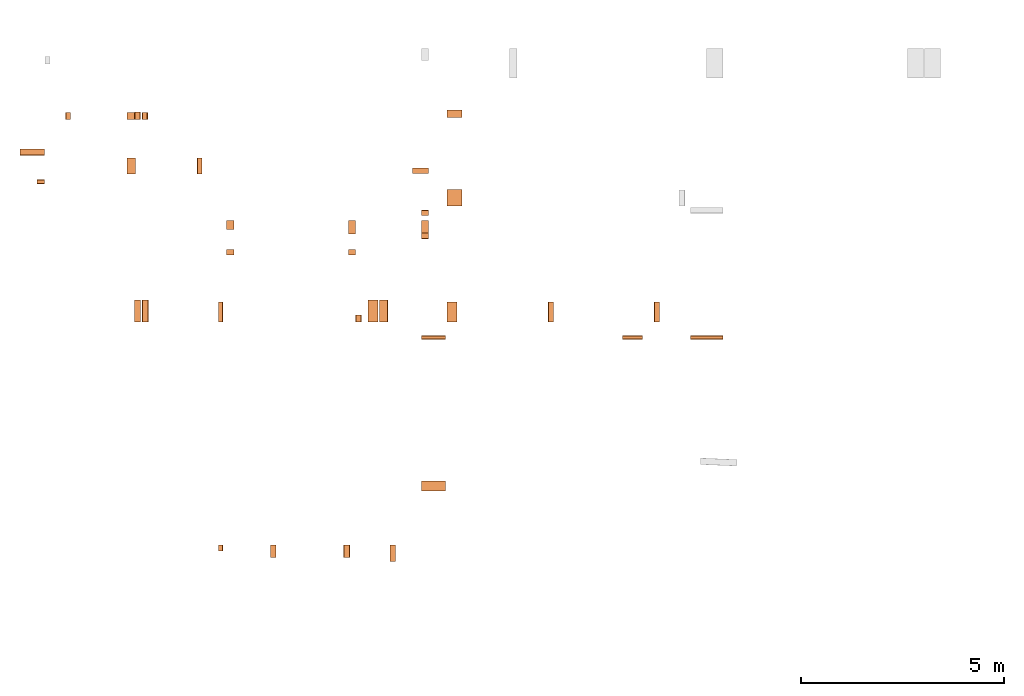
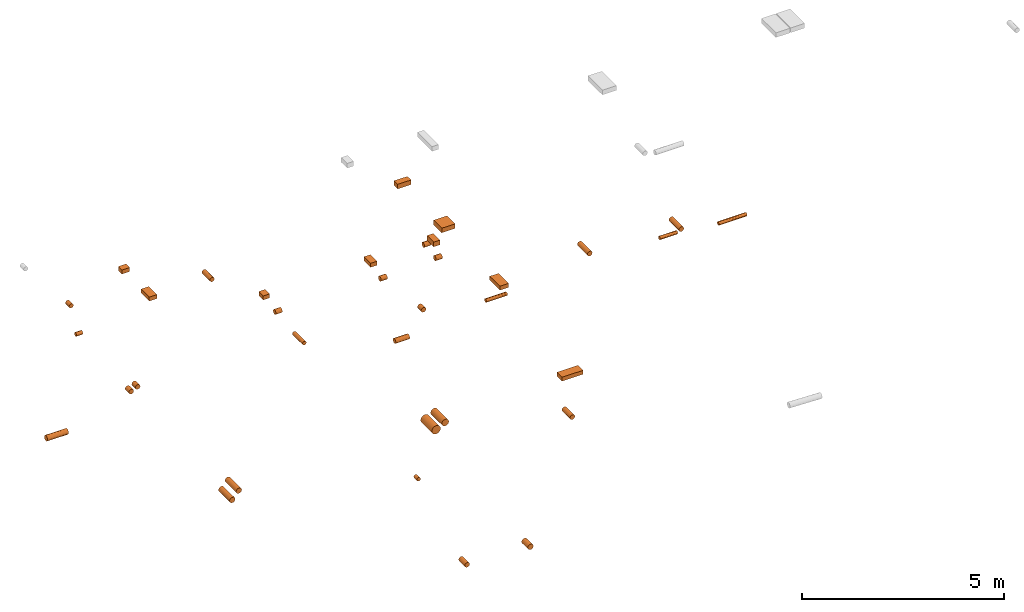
# One storey, part 2 of 7: 36 proxies.
"""IFC2X3 building model written with IfcOpenShell, lengths in centimetres."""

from ifc_helpers import new_model, entity, si_unit, converted_unit, derived_unit, direction, frame, frame_2d, origin, origin_2d_with_axis, place, context, subcontext, project, spatial, rectangle, circle, extrude, source, transform, mapped, material, type_object, type_shapes, element, save


model = new_model("IFC2X3")

# Units and contexts
model_context = context("Model", 3, precision=0.001, world=origin(), true_north=direction((6.12303176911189e-17, 1.0)))
body_context = subcontext(model_context, "Body", "Model", "MODEL_VIEW")
ifc_project = project(units=[si_unit("LENGTHUNIT", "METRE", prefix="CENTI"), si_unit("AREAUNIT", "SQUARE_METRE"), si_unit("VOLUMEUNIT", "CUBIC_METRE"), converted_unit("PLANEANGLEUNIT", "DEGREE", entity("IfcRatioMeasure", 0.0174532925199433), si_unit("PLANEANGLEUNIT", "RADIAN"), dimensions=[0, 0, 0, 0, 0, 0, 0]), si_unit("MASSUNIT", "GRAM", prefix="KILO"), derived_unit("MASSDENSITYUNIT", [(si_unit("MASSUNIT", "GRAM", prefix="KILO"), 1), (si_unit("LENGTHUNIT", "METRE"), -3)]), si_unit("TIMEUNIT", "SECOND"), si_unit("FREQUENCYUNIT", "HERTZ"), si_unit("THERMODYNAMICTEMPERATUREUNIT", "DEGREE_CELSIUS"), derived_unit("THERMALTRANSMITTANCEUNIT", [(si_unit("MASSUNIT", "GRAM", prefix="KILO"), 1), (si_unit("THERMODYNAMICTEMPERATUREUNIT", "KELVIN"), -1), (si_unit("TIMEUNIT", "SECOND"), -3)]), derived_unit("VOLUMETRICFLOWRATEUNIT", [(si_unit("LENGTHUNIT", "METRE"), 3), (si_unit("TIMEUNIT", "SECOND"), -1)]), si_unit("ELECTRICCURRENTUNIT", "AMPERE"), si_unit("ELECTRICVOLTAGEUNIT", "VOLT"), si_unit("POWERUNIT", "WATT"), si_unit("FORCEUNIT", "NEWTON"), si_unit("ILLUMINANCEUNIT", "LUX"), si_unit("LUMINOUSFLUXUNIT", "LUMEN"), si_unit("LUMINOUSINTENSITYUNIT", "CANDELA"), derived_unit("USERDEFINED", [(si_unit("MASSUNIT", "GRAM", prefix="KILO"), -1), (si_unit("LENGTHUNIT", "METRE"), -2), (si_unit("TIMEUNIT", "SECOND"), 3), (si_unit("LUMINOUSFLUXUNIT", "LUMEN"), 1)]), derived_unit("LINEARVELOCITYUNIT", [(si_unit("LENGTHUNIT", "METRE"), 1), (si_unit("TIMEUNIT", "SECOND"), -1)]), si_unit("PRESSUREUNIT", "PASCAL"), derived_unit("USERDEFINED", [(si_unit("LENGTHUNIT", "METRE"), -2), (si_unit("MASSUNIT", "GRAM", prefix="KILO"), 1), (si_unit("TIMEUNIT", "SECOND"), -2)])], contexts=[model_context])

# Site, building, storey
site_placement = place(None, origin())
site = spatial("IfcSite", under=ifc_project, at=site_placement, Name="Default", CompositionType="ELEMENT")
building_placement = place(site_placement, origin())
building = spatial("IfcBuilding", under=site, at=building_placement, Name="CAGE 03", CompositionType="ELEMENT")
storey_placement = place(building_placement, origin())
storey = spatial("IfcBuildingStorey", under=building, at=storey_placement, Name="RDC", CompositionType="ELEMENT", Elevation=-1.08286712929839e-13)

# Proxies
ifc_material = material(Name="Verre")
building_element_proxy_type_1 = type_object("IfcBuildingElementProxyType", Name="Standard", PredefinedType="NOTDEFINED", material=ifc_material)
shared_shape_1 = source(origin(), body_context, "Body", "SweptSolid", [
    extrude(circle(Radius=8.0, at=frame_2d((0.0, -2.70716782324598e-14), x_axis=(1.0, 0.0))), frame((3452.91325995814, 4381.66066607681, -83.048852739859), z_axis=(0.0, 1.0, 0.0), x_axis=(1.0, 0.0, 0.0)), (0.0, 0.0, 1.0), 54.9999999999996),
])
type_shapes(building_element_proxy_type_1, [shared_shape_1])
proxy_1_placement = place(storey_placement, origin())
element("IfcBuildingElementProxy", 1, at=proxy_1_placement, inside=storey, type_object=building_element_proxy_type_1, material=ifc_material, Name="RESERVATION CIRC_MUR:Standard", ObjectType="Standard", context=body_context, shape_type="MappedRepresentation", body=[
    mapped(shared_shape_1, transform((0.0, 0.0, 0.0), scale=1.0)),
])
building_element_proxy_type_2 = type_object("IfcBuildingElementProxyType", Name="Standard", PredefinedType="NOTDEFINED", material=ifc_material)
shared_shape_2 = source(origin(), body_context, "Body", "SweptSolid", [
    extrude(circle(Radius=8.0, at=frame_2d((0.0, -4.06075173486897e-14), x_axis=(1.0, 0.0))), frame((3950.0323707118, 3801.66066607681, -75.1038906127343), z_axis=(0.0, 1.0, 0.0), x_axis=(1.0, 0.0, 0.0)), (0.0, 0.0, 1.0), 30.0000000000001),
])
type_shapes(building_element_proxy_type_2, [shared_shape_2])
proxy_2_placement = place(storey_placement, origin())
element("IfcBuildingElementProxy", 2, at=proxy_2_placement, inside=storey, type_object=building_element_proxy_type_2, material=ifc_material, Name="RESERVATION CIRC_MUR:Standard", ObjectType="Standard", context=body_context, shape_type="MappedRepresentation", body=[
    mapped(shared_shape_2, transform((0.0, 0.0, 0.0), scale=1.0)),
])
building_element_proxy_type_3 = type_object("IfcBuildingElementProxyType", Name="Standard", PredefinedType="NOTDEFINED", material=ifc_material)
shared_shape_3 = source(origin(), body_context, "Body", "SweptSolid", [
    extrude(circle(Radius=10.0, at=frame_2d((0.0, -5.41433564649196e-14), x_axis=(1.0, 0.0))), frame((4041.6712981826, 4381.66066607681, -83.6787810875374), z_axis=(0.0, 1.0, 0.0), x_axis=(1.0, 0.0, 0.0)), (0.0, 0.0, 1.0), 54.9999999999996),
])
type_shapes(building_element_proxy_type_3, [shared_shape_3])
proxy_3_placement = place(storey_placement, origin())
element("IfcBuildingElementProxy", 3, at=proxy_3_placement, inside=storey, type_object=building_element_proxy_type_3, material=ifc_material, Name="RESERVATION CIRC_MUR:Standard", ObjectType="Standard", context=body_context, shape_type="MappedRepresentation", body=[
    mapped(shared_shape_3, transform((0.0, 0.0, 0.0), scale=1.0)),
])
building_element_proxy_type_4 = type_object("IfcBuildingElementProxyType", Name="Standard", PredefinedType="NOTDEFINED", material=ifc_material)
shared_shape_4 = source(origin(), body_context, "Body", "SweptSolid", [
    extrude(circle(Radius=7.0, at=frame_2d((-3.48550551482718e-16, -3.1514871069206e-14), x_axis=(1.0, 0.0))), frame((0.0, -9.0, 0.0), z_axis=(0.0, 1.0, 0.0), x_axis=(1.0, 0.0, 0.0)), (0.0, 0.0, 1.0), 17.9999999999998),
])
type_shapes(building_element_proxy_type_4, [shared_shape_4])
proxy_4_placement = place(storey_placement, frame((3979.57936653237, 4390.66066607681, 278.246082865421), z_axis=(0.0, 0.0, 1.0), x_axis=(-1.0, 0.0, 0.0)))
element("IfcBuildingElementProxy", 4, at=proxy_4_placement, inside=storey, type_object=building_element_proxy_type_4, material=ifc_material, Name="RESERVATION CIRC_MUR:Standard", ObjectType="Standard", context=body_context, shape_type="MappedRepresentation", body=[
    mapped(shared_shape_4, transform((0.0, 0.0, 0.0), scale=1.0)),
])
building_element_proxy_type_5 = type_object("IfcBuildingElementProxyType", Name="Standard", PredefinedType="NOTDEFINED", material=ifc_material)
shared_shape_5 = source(origin(), body_context, "Body", "SweptSolid", [
    extrude(circle(Radius=7.0, at=frame_2d((-3.48550551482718e-16, -3.1514871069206e-14), x_axis=(1.0, 0.0))), frame((0.0, -25.0, 0.0), z_axis=(0.0, 1.0, 0.0), x_axis=(1.0, 0.0, 0.0)), (0.0, 0.0, 1.0), 49.9999999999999),
])
type_shapes(building_element_proxy_type_5, [shared_shape_5])
proxy_5_placement = place(storey_placement, frame((4454.09511344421, 4406.66066607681, 281.569261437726), z_axis=(0.0, 0.0, 1.0), x_axis=(-1.0, 0.0, 0.0)))
element("IfcBuildingElementProxy", 5, at=proxy_5_placement, inside=storey, type_object=building_element_proxy_type_5, material=ifc_material, Name="RESERVATION CIRC_MUR:Standard", ObjectType="Standard", context=body_context, shape_type="MappedRepresentation", body=[
    mapped(shared_shape_5, transform((0.0, 0.0, 0.0), scale=1.0)),
])
building_element_proxy_type_6 = type_object("IfcBuildingElementProxyType", Name="Standard", PredefinedType="NOTDEFINED", material=ifc_material)
shared_shape_6 = source(origin(), body_context, "Body", "SweptSolid", [
    extrude(circle(Radius=7.0, at=frame_2d((0.0, -2.70716782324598e-14), x_axis=(1.0, 0.0))), frame((3452.91325995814, 4881.65566607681, -73.1800399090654), z_axis=(0.0, 1.0, 0.0), x_axis=(1.0, 0.0, 0.0)), (0.0, 0.0, 1.0), 18.0100000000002),
])
type_shapes(building_element_proxy_type_6, [shared_shape_6])
proxy_6_placement = place(storey_placement, origin())
element("IfcBuildingElementProxy", 6, at=proxy_6_placement, inside=storey, type_object=building_element_proxy_type_6, material=ifc_material, Name="RESERVATION CIRC_MUR:Standard", ObjectType="Standard", context=body_context, shape_type="MappedRepresentation", body=[
    mapped(shared_shape_6, transform((0.0, 0.0, 0.0), scale=1.0)),
])
building_element_proxy_type_7 = type_object("IfcBuildingElementProxyType", Name="Standard", PredefinedType="NOTDEFINED", material=ifc_material)
shared_shape_7 = source(origin(), body_context, "Body", "SweptSolid", [
    extrude(circle(Radius=7.0, at=frame_2d((0.0, -2.70716782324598e-14), x_axis=(1.0, 0.0))), frame((3434.05857848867, 4881.61066607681, -80.916963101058), z_axis=(0.0, 1.0, 0.0), x_axis=(1.0, 0.0, 0.0)), (0.0, 0.0, 1.0), 18.0999999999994),
])
type_shapes(building_element_proxy_type_7, [shared_shape_7])
proxy_7_placement = place(storey_placement, origin())
element("IfcBuildingElementProxy", 7, at=proxy_7_placement, inside=storey, type_object=building_element_proxy_type_7, material=ifc_material, Name="RESERVATION CIRC_MUR:Standard", ObjectType="Standard", context=body_context, shape_type="MappedRepresentation", body=[
    mapped(shared_shape_7, transform((0.0, 0.0, 0.0), scale=1.0)),
])
building_element_proxy_type_8 = type_object("IfcBuildingElementProxyType", Name="Standard", PredefinedType="NOTDEFINED", material=ifc_material)
shared_shape_8 = source(origin(), body_context, "Body", "SweptSolid", [
    extrude(circle(Radius=8.0, at=frame_2d((0.0, -1.35358391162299e-14), x_axis=(1.0, 0.0))), frame((3144.36582014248, 4801.30550928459, -71.3211962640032), z_axis=(1.0, 0.0, 0.0), x_axis=(0.0, 1.0, 0.0)), (0.0, 0.0, 1.0), 60.0000000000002),
])
type_shapes(building_element_proxy_type_8, [shared_shape_8])
proxy_8_placement = place(storey_placement, origin())
element("IfcBuildingElementProxy", 8, at=proxy_8_placement, inside=storey, type_object=building_element_proxy_type_8, material=ifc_material, Name="RESERVATION CIRC_MUR:Standard", ObjectType="Standard", context=body_context, shape_type="MappedRepresentation", body=[
    mapped(shared_shape_8, transform((0.0, 0.0, 0.0), scale=1.0)),
])
building_element_proxy_type_9 = type_object("IfcBuildingElementProxyType", Name="Standard", PredefinedType="NOTDEFINED", material=ifc_material)
shared_shape_9 = source(origin(), body_context, "Body", "SweptSolid", [
    extrude(circle(Radius=8.0, at=frame_2d((0.0, -4.06075173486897e-14), x_axis=(1.0, 0.0))), frame((3434.25223407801, 4381.66066607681, -104.670203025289), z_axis=(0.0, 1.0, 0.0), x_axis=(1.0, 0.0, 0.0)), (0.0, 0.0, 1.0), 54.9999999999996),
])
type_shapes(building_element_proxy_type_9, [shared_shape_9])
proxy_9_placement = place(storey_placement, origin())
element("IfcBuildingElementProxy", 9, at=proxy_9_placement, inside=storey, type_object=building_element_proxy_type_9, material=ifc_material, Name="RESERVATION CIRC_MUR:Standard", ObjectType="Standard", context=body_context, shape_type="MappedRepresentation", body=[
    mapped(shared_shape_9, transform((0.0, 0.0, 0.0), scale=1.0)),
])
building_element_proxy_type_10 = type_object("IfcBuildingElementProxyType", Name="Standard", PredefinedType="NOTDEFINED", material=ifc_material)
shared_shape_10 = source(origin(), body_context, "Body", "SweptSolid", [
    extrude(circle(Radius=12.5, at=frame_2d((0.0, -5.41433564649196e-14), x_axis=(1.0, 0.0))), frame((4015.59188357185, 4381.66066607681, -96.3596179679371), z_axis=(0.0, 1.0, 0.0), x_axis=(1.0, 0.0, 0.0)), (0.0, 0.0, 1.0), 54.9999999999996),
])
type_shapes(building_element_proxy_type_10, [shared_shape_10])
proxy_10_placement = place(storey_placement, origin())
element("IfcBuildingElementProxy", 10, at=proxy_10_placement, inside=storey, type_object=building_element_proxy_type_10, material=ifc_material, Name="RESERVATION CIRC_MUR:Standard", ObjectType="Standard", context=body_context, shape_type="MappedRepresentation", body=[
    mapped(shared_shape_10, transform((0.0, 0.0, 0.0), scale=1.0)),
])
building_element_proxy_type_11 = type_object("IfcBuildingElementProxyType", Name="Standard", PredefinedType="NOTDEFINED", material=ifc_material)
shared_shape_11 = source(origin(), body_context, "Body", "SweptSolid", [
    extrude(circle(Radius=7.0, at=frame_2d((0.0, -1.35358391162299e-14), x_axis=(1.0, 0.0))), frame((4112.35077153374, 4755.59328890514, -89.05250063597), z_axis=(1.0, 0.0, 0.0), x_axis=(0.0, 1.0, 0.0)), (0.0, 0.0, 1.0), 40.0300972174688),
])
type_shapes(building_element_proxy_type_11, [shared_shape_11])
proxy_11_placement = place(storey_placement, origin())
element("IfcBuildingElementProxy", 11, at=proxy_11_placement, inside=storey, type_object=building_element_proxy_type_11, material=ifc_material, Name="RESERVATION CIRC_MUR:Standard", ObjectType="Standard", context=body_context, shape_type="MappedRepresentation", body=[
    mapped(shared_shape_11, transform((0.0, 0.0, 0.0), scale=1.0)),
])
building_element_proxy_type_12 = type_object("IfcBuildingElementProxyType", Name="Standard", PredefinedType="NOTDEFINED", material=ifc_material)
shared_shape_12 = source(origin(), body_context, "Body", "SweptSolid", [
    extrude(circle(Radius=7.0, at=frame_2d((0.0, -4.06075173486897e-14), x_axis=(1.0, 0.0))), frame((3769.36582014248, 3801.66066607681, -66.0), z_axis=(0.0, 1.0, 0.0), x_axis=(1.0, 0.0, 0.0)), (0.0, 0.0, 1.0), 30.0000000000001),
])
type_shapes(building_element_proxy_type_12, [shared_shape_12])
proxy_12_placement = place(storey_placement, origin())
element("IfcBuildingElementProxy", 12, at=proxy_12_placement, inside=storey, type_object=building_element_proxy_type_12, material=ifc_material, Name="RESERVATION CIRC_MUR:Standard", ObjectType="Standard", context=body_context, shape_type="MappedRepresentation", body=[
    mapped(shared_shape_12, transform((0.0, 0.0, 0.0), scale=1.0)),
])
building_element_proxy_type_13 = type_object("IfcBuildingElementProxyType", Name="Standard", PredefinedType="NOTDEFINED", material=ifc_material)
shared_shape_13 = source(origin(), body_context, "Body", "SweptSolid", [
    extrude(circle(Radius=7.00000000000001, at=origin_2d_with_axis()), frame((3654.36582014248, 4554.59080806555, 280.691843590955), z_axis=(1.0, 0.0, 0.0), x_axis=(0.0, 1.0, 0.0)), (0.0, 0.0, 1.0), 17.9999999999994),
])
type_shapes(building_element_proxy_type_13, [shared_shape_13])
proxy_13_placement = place(storey_placement, origin())
element("IfcBuildingElementProxy", 13, at=proxy_13_placement, inside=storey, type_object=building_element_proxy_type_13, material=ifc_material, Name="RESERVATION CIRC_MUR:Standard", ObjectType="Standard", context=body_context, shape_type="MappedRepresentation", body=[
    mapped(shared_shape_13, transform((0.0, 0.0, 0.0), scale=1.0)),
])
building_element_proxy_type_14 = type_object("IfcBuildingElementProxyType", Name="Standard", PredefinedType="NOTDEFINED", material=ifc_material)
shared_shape_14 = source(origin(), body_context, "Body", "SweptSolid", [
    extrude(circle(Radius=7.0, at=origin_2d_with_axis()), frame((3954.36582014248, 4554.59080806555, 276.225630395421), z_axis=(1.0, 0.0, 0.0), x_axis=(0.0, 1.0, 0.0)), (0.0, 0.0, 1.0), 17.9999999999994),
])
type_shapes(building_element_proxy_type_14, [shared_shape_14])
proxy_14_placement = place(storey_placement, origin())
element("IfcBuildingElementProxy", 14, at=proxy_14_placement, inside=storey, type_object=building_element_proxy_type_14, material=ifc_material, Name="RESERVATION CIRC_MUR1:Standard", ObjectType="Standard", context=body_context, shape_type="MappedRepresentation", body=[
    mapped(shared_shape_14, transform((0.0, 0.0, 0.0), scale=1.0)),
])
building_element_proxy_type_15 = type_object("IfcBuildingElementProxyType", Name="Standard", PredefinedType="NOTDEFINED", material=ifc_material)
shared_shape_15 = source(origin(), body_context, "Body", "SweptSolid", [
    extrude(circle(Radius=7.0, at=frame_2d((-3.48550551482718e-16, -3.1514871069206e-14), x_axis=(1.0, 0.0))), frame((0.0, -9.0, 0.0), z_axis=(0.0, 1.0, 0.0), x_axis=(1.0, 0.0, 0.0)), (0.0, 0.0, 1.0), 18.0000000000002),
])
type_shapes(building_element_proxy_type_15, [shared_shape_15])
proxy_15_placement = place(storey_placement, frame((4143.36582014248, 4594.35751097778, 250.79), z_axis=(0.0, 0.0, 1.0), x_axis=(0.0, 1.0, 0.0)))
element("IfcBuildingElementProxy", 15, at=proxy_15_placement, inside=storey, type_object=building_element_proxy_type_15, material=ifc_material, Name="RESERVATION CIRC_MUR1:Standard", ObjectType="Standard", context=body_context, shape_type="MappedRepresentation", body=[
    mapped(shared_shape_15, transform((0.0, 0.0, 0.0), scale=1.0)),
])
building_element_proxy_type_16 = type_object("IfcBuildingElementProxyType", Name="Standard", PredefinedType="NOTDEFINED", material=ifc_material)
shared_shape_16 = source(origin(), body_context, "Body", "SweptSolid", [
    extrude(circle(Radius=7.0, at=frame_2d((-3.48550551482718e-16, -3.1514871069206e-14), x_axis=(1.0, 0.0))), frame((0.0, -9.0, 0.0), z_axis=(0.0, 1.0, 0.0), x_axis=(1.0, 0.0, 0.0)), (0.0, 0.0, 1.0), 17.9999999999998),
])
type_shapes(building_element_proxy_type_16, [shared_shape_16])
proxy_16_placement = place(storey_placement, frame((3979.57936653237, 4390.66066607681, 278.246082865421), z_axis=(0.0, 0.0, 1.0), x_axis=(-1.0, 0.0, 0.0)))
element("IfcBuildingElementProxy", 16, at=proxy_16_placement, inside=storey, type_object=building_element_proxy_type_16, material=ifc_material, Name="RESERVATION CIRC_MUR1:Standard", ObjectType="Standard", context=body_context, shape_type="MappedRepresentation", body=[
    mapped(shared_shape_16, transform((0.0, 0.0, 0.0), scale=1.0)),
])
building_element_proxy_type_17 = type_object("IfcBuildingElementProxyType", Name="Standard", PredefinedType="NOTDEFINED", material=ifc_material)
shared_shape_17 = source(origin(), body_context, "Body", "SweptSolid", [
    extrude(circle(Radius=7.0, at=frame_2d((-3.48550551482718e-16, -3.1514871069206e-14), x_axis=(1.0, 0.0))), frame((0.0, -20.0, 0.0), z_axis=(0.0, 1.0, 0.0), x_axis=(1.0, 0.0, 0.0)), (0.0, 0.0, 1.0), 40.0000000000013),
])
type_shapes(building_element_proxy_type_17, [shared_shape_17])
proxy_17_placement = place(storey_placement, frame((4063.81769957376, 3811.66066607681, 282.561629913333), z_axis=(0.0, 0.0, 1.0), x_axis=(-1.0, 0.0, 0.0)))
element("IfcBuildingElementProxy", 17, at=proxy_17_placement, inside=storey, type_object=building_element_proxy_type_17, material=ifc_material, Name="RESERVATION CIRC_MUR1:Standard", ObjectType="Standard", context=body_context, shape_type="MappedRepresentation", body=[
    mapped(shared_shape_17, transform((0.0, 0.0, 0.0), scale=1.0)),
])
building_element_proxy_type_18 = type_object("IfcBuildingElementProxyType", Name="Standard", PredefinedType="NOTDEFINED", material=ifc_material)
shared_shape_18 = source(origin(), body_context, "Body", "SweptSolid", [
    extrude(circle(Radius=6.25, at=frame_2d((0.0, -2.70716782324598e-14), x_axis=(1.0, 0.0))), frame((3263.03068467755, 4881.66066607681, 237.743527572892), z_axis=(-4.66450641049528e-06, 1.0, 0.0), x_axis=(-1.0, -4.66450641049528e-06, 0.0)), (0.0, 0.0, 1.0), 18.0000000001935),
])
type_shapes(building_element_proxy_type_18, [shared_shape_18])
proxy_18_placement = place(storey_placement, origin())
element("IfcBuildingElementProxy", 18, at=proxy_18_placement, inside=storey, type_object=building_element_proxy_type_18, material=ifc_material, Name="RESERVATION CIRC_MUR:Standard", ObjectType="Standard", context=body_context, shape_type="MappedRepresentation", body=[
    mapped(shared_shape_18, transform((0.0, 0.0, 0.0), scale=1.0)),
])
building_element_proxy_type_19 = type_object("IfcBuildingElementProxyType", Name="Standard", PredefinedType="NOTDEFINED", material=ifc_material)
shared_shape_19 = source(origin(), body_context, "Body", "SweptSolid", [
    extrude(circle(Radius=6.25, at=frame_2d((-3.48550551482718e-16, -2.81382777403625e-14), x_axis=(1.0, 0.0))), frame((0.0, -20.0, 0.0), z_axis=(0.0, 1.0, 0.0), x_axis=(1.0, 0.0, 0.0)), (0.0, 0.0, 1.0), 40.0000000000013),
])
type_shapes(building_element_proxy_type_19, [shared_shape_19])
proxy_19_placement = place(storey_placement, frame((3587.36582014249, 4767.16066607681, 285.076580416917), z_axis=(0.0, 0.0, 1.0), x_axis=(-1.0, 0.0, 0.0)))
element("IfcBuildingElementProxy", 19, at=proxy_19_placement, inside=storey, type_object=building_element_proxy_type_19, material=ifc_material, Name="RESERVATION CIRC_MUR1:Standard", ObjectType="Standard", context=body_context, shape_type="MappedRepresentation", body=[
    mapped(shared_shape_19, transform((0.0, 0.0, 0.0), scale=1.0)),
])
building_element_proxy_type_20 = type_object("IfcBuildingElementProxyType", Name="Standard", PredefinedType="NOTDEFINED", material=ifc_material)
shared_shape_20 = source(origin(), body_context, "Body", "SweptSolid", [
    extrude(circle(Radius=7.0, at=frame_2d((-3.48550551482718e-16, -3.1514871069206e-14), x_axis=(1.0, 0.0))), frame((0.0, -25.0, 0.0), z_axis=(0.0, 1.0, 0.0), x_axis=(1.0, 0.0, 0.0)), (0.0, 0.0, 1.0), 49.9999999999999),
])
type_shapes(building_element_proxy_type_20, [shared_shape_20])
proxy_20_placement = place(storey_placement, frame((4715.36626903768, 4406.66049003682, 264.086332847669), z_axis=(0.0, 0.0, 1.0), x_axis=(-1.0, -5.13707993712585e-08, 0.0)))
element("IfcBuildingElementProxy", 20, at=proxy_20_placement, inside=storey, type_object=building_element_proxy_type_20, material=ifc_material, Name="RESERVATION CIRC_MUR1:Standard", ObjectType="Standard", context=body_context, shape_type="MappedRepresentation", body=[
    mapped(shared_shape_20, transform((0.0, 0.0, 0.0), scale=1.0)),
])
building_element_proxy_type_21 = type_object("IfcBuildingElementProxyType", Name="Standard", PredefinedType="NOTDEFINED", material=ifc_material)
shared_shape_21 = source(origin(), body_context, "Body", "SweptSolid", [
    extrude(circle(Radius=7.0, at=origin_2d_with_axis()), frame((4134.36582014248, 4651.62026176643, 256.214646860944), z_axis=(1.0, 0.0, 0.0), x_axis=(0.0, 1.0, 0.0)), (0.0, 0.0, 1.0), 17.9999999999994),
])
type_shapes(building_element_proxy_type_21, [shared_shape_21])
proxy_21_placement = place(storey_placement, origin())
element("IfcBuildingElementProxy", 21, at=proxy_21_placement, inside=storey, type_object=building_element_proxy_type_21, material=ifc_material, Name="RESERVATION CIRC_MUR1:Standard", ObjectType="Standard", context=body_context, shape_type="MappedRepresentation", body=[
    mapped(shared_shape_21, transform((0.0, 0.0, 0.0), scale=1.0)),
])
building_element_proxy_type_22 = type_object("IfcBuildingElementProxyType", Name="Standard", PredefinedType="NOTDEFINED", material=ifc_material)
shared_shape_22 = source(origin(), body_context, "Body", "SweptSolid", [
    extrude(rectangle(XDim=39.9999999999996, YDim=21.9999999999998, at=origin_2d_with_axis()), frame((3418.81931142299, 4767.16066607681, 283.076580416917), z_axis=(0.0, 0.0, 1.0), x_axis=(0.0, -1.0, 0.0)), (0.0, 0.0, 1.0), 12.0),
])
type_shapes(building_element_proxy_type_22, [shared_shape_22])
proxy_22_placement = place(storey_placement, origin())
element("IfcBuildingElementProxy", 22, at=proxy_22_placement, inside=storey, type_object=building_element_proxy_type_22, material=ifc_material, Name="RESERVATION RECT_MUR:Standard", ObjectType="Standard", context=body_context, shape_type="MappedRepresentation", body=[
    mapped(shared_shape_22, transform((0.0, 0.0, 0.0), scale=1.0)),
])
building_element_proxy_type_23 = type_object("IfcBuildingElementProxyType", Name="Standard", PredefinedType="NOTDEFINED", material=ifc_material)
shared_shape_23 = source(origin(), body_context, "Body", "SweptSolid", [
    extrude(rectangle(XDim=17.9999999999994, YDim=22.0000000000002, at=origin_2d_with_axis()), frame((3663.36582014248, 4621.66066607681, 283.076580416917)), (0.0, 0.0, 1.0), 12.0),
])
type_shapes(building_element_proxy_type_23, [shared_shape_23])
proxy_23_placement = place(storey_placement, origin())
element("IfcBuildingElementProxy", 23, at=proxy_23_placement, inside=storey, type_object=building_element_proxy_type_23, material=ifc_material, Name="RESERVATION RECT_MUR:Standard", ObjectType="Standard", context=body_context, shape_type="MappedRepresentation", body=[
    mapped(shared_shape_23, transform((0.0, 0.0, 0.0), scale=1.0)),
])
building_element_proxy_type_24 = type_object("IfcBuildingElementProxyType", Name="Standard", PredefinedType="NOTDEFINED", material=ifc_material)
shared_shape_24 = source(origin(), body_context, "Body", "SweptSolid", [
    extrude(rectangle(XDim=17.9999999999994, YDim=33.0000000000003, at=frame_2d((0.0, 4.33431068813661e-13), x_axis=(1.0, 0.0))), frame((3963.36582014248, 4616.04137568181, 283.076580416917)), (0.0, 0.0, 1.0), 12.0),
])
type_shapes(building_element_proxy_type_24, [shared_shape_24])
proxy_24_placement = place(storey_placement, origin())
element("IfcBuildingElementProxy", 24, at=proxy_24_placement, inside=storey, type_object=building_element_proxy_type_24, material=ifc_material, Name="RESERVATION RECT_MUR:Standard", ObjectType="Standard", context=body_context, shape_type="MappedRepresentation", body=[
    mapped(shared_shape_24, transform((0.0, 0.0, 0.0), scale=1.0)),
])
building_element_proxy_type_25 = type_object("IfcBuildingElementProxyType", Name="Standard", PredefinedType="NOTDEFINED", material=ifc_material)
shared_shape_25 = source(origin(), body_context, "Body", "SweptSolid", [
    extrude(rectangle(XDim=17.9999999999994, YDim=21.9999999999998, at=frame_2d((4.33431068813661e-13, -2.16715534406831e-13), x_axis=(1.0, 0.0))), frame((3418.81931142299, 4890.66066607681, 283.076580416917), z_axis=(0.0, 0.0, 1.0), x_axis=(0.0, -1.0, 0.0)), (0.0, 0.0, 1.0), 12.0),
])
type_shapes(building_element_proxy_type_25, [shared_shape_25])
proxy_25_placement = place(storey_placement, origin())
element("IfcBuildingElementProxy", 25, at=proxy_25_placement, inside=storey, type_object=building_element_proxy_type_25, material=ifc_material, Name="RESERVATION RECT_MUR:Standard", ObjectType="Standard", context=body_context, shape_type="MappedRepresentation", body=[
    mapped(shared_shape_25, transform((0.0, 0.0, 0.0), scale=1.0)),
])
building_element_proxy_type_26 = type_object("IfcBuildingElementProxyType", Name="Standard", PredefinedType="NOTDEFINED", material=ifc_material)
shared_shape_26 = source(origin(), body_context, "Body", "SweptSolid", [
    extrude(rectangle(XDim=17.9999999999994, YDim=33.0000000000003, at=frame_2d((0.0, -4.33431068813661e-13), x_axis=(1.0, 0.0))), frame((4143.36582014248, 4615.97704022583, 282.076580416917)), (0.0, 0.0, 1.0), 14.0),
])
type_shapes(building_element_proxy_type_26, [shared_shape_26])
proxy_26_placement = place(storey_placement, origin())
element("IfcBuildingElementProxy", 26, at=proxy_26_placement, inside=storey, type_object=building_element_proxy_type_26, material=ifc_material, Name="RESERVATION RECT_MUR:Standard", ObjectType="Standard", context=body_context, shape_type="MappedRepresentation", body=[
    mapped(shared_shape_26, transform((0.0, 0.0, 0.0), scale=1.0)),
])
building_element_proxy_type_27 = type_object("IfcBuildingElementProxyType", Name="Standard", PredefinedType="NOTDEFINED", material=ifc_material)
shared_shape_27 = source(origin(), body_context, "Body", "SweptSolid", [
    extrude(rectangle(XDim=60.0000000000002, YDim=25.0, at=origin_2d_with_axis()), frame((0.0, 0.0, -6.0), z_axis=(0.0, 0.0, 1.0), x_axis=(0.0, 1.0, 0.0)), (0.0, 0.0, 1.0), 12.0),
])
type_shapes(building_element_proxy_type_27, [shared_shape_27])
proxy_27_placement = place(storey_placement, frame((4164.36582014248, 3977.64529997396, 267.0454677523), z_axis=(0.0, 0.0, 1.0), x_axis=(0.0, -1.0, 0.0)))
element("IfcBuildingElementProxy", 27, at=proxy_27_placement, inside=storey, type_object=building_element_proxy_type_27, material=ifc_material, Name="RESERVATION RECT_MUR:Standard", ObjectType="Standard", context=body_context, shape_type="MappedRepresentation", body=[
    mapped(shared_shape_27, transform((0.0, 0.0, 0.0), scale=1.0)),
])
building_element_proxy_type_28 = type_object("IfcBuildingElementProxyType", Name="Standard", PredefinedType="NOTDEFINED", material=ifc_material)
shared_shape_28 = source(origin(), body_context, "Body", "SweptSolid", [
    extrude(rectangle(XDim=49.9999999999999, YDim=25.0, at=origin_2d_with_axis()), frame((0.0, 0.0, -6.0), z_axis=(0.0, 0.0, 1.0), x_axis=(0.0, 1.0, 0.0)), (0.0, 0.0, 1.0), 12.0),
])
type_shapes(building_element_proxy_type_28, [shared_shape_28])
proxy_28_placement = place(storey_placement, frame((4209.85278994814, 4406.66066607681, 266.924262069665)))
element("IfcBuildingElementProxy", 28, at=proxy_28_placement, inside=storey, type_object=building_element_proxy_type_28, material=ifc_material, Name="RESERVATION RECT_MUR:Standard", ObjectType="Standard", context=body_context, shape_type="MappedRepresentation", body=[
    mapped(shared_shape_28, transform((0.0, 0.0, 0.0), scale=1.0)),
])
building_element_proxy_type_29 = type_object("IfcBuildingElementProxyType", Name="Standard", PredefinedType="NOTDEFINED", material=ifc_material)
shared_shape_29 = source(origin(), body_context, "Body", "SweptSolid", [
    extrude(rectangle(XDim=17.9999999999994, YDim=38.0, at=origin_2d_with_axis()), frame((4216.39533380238, 4895.66066607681, 260.076580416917), z_axis=(0.0, 0.0, 1.0), x_axis=(0.0, 1.0, 0.0)), (0.0, 0.0, 1.0), 14.0),
])
type_shapes(building_element_proxy_type_29, [shared_shape_29])
proxy_29_placement = place(storey_placement, origin())
element("IfcBuildingElementProxy", 29, at=proxy_29_placement, inside=storey, type_object=building_element_proxy_type_29, material=ifc_material, Name="RESERVATION RECT_MUR:Standard", ObjectType="Standard", context=body_context, shape_type="MappedRepresentation", body=[
    mapped(shared_shape_29, transform((0.0, 0.0, 0.0), scale=1.0)),
])
building_element_proxy_type_30 = type_object("IfcBuildingElementProxyType", Name="Standard", PredefinedType="NOTDEFINED", material=ifc_material)
shared_shape_30 = source(origin(), body_context, "Body", "SweptSolid", [
    extrude(circle(Radius=5.5, at=origin_2d_with_axis()), frame((3186.36582014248, 4728.14889955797, 271.5), z_axis=(1.0, 0.0, 0.0), x_axis=(0.0, 1.0, 0.0)), (0.0, 0.0, 1.0), 17.9999999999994),
])
type_shapes(building_element_proxy_type_30, [shared_shape_30])
proxy_30_placement = place(storey_placement, origin())
element("IfcBuildingElementProxy", 30, at=proxy_30_placement, inside=storey, type_object=building_element_proxy_type_30, material=ifc_material, Name="RESERVATION CIRC_MUR:Standard", ObjectType="Standard", context=body_context, shape_type="MappedRepresentation", body=[
    mapped(shared_shape_30, transform((0.0, 0.0, 0.0), scale=1.0)),
])
building_element_proxy_type_31 = type_object("IfcBuildingElementProxyType", Name="Standard", PredefinedType="NOTDEFINED", material=ifc_material)
shared_shape_31 = source(origin(), body_context, "Body", "SweptSolid", [
    extrude(circle(Radius=5.5, at=frame_2d((-3.48550551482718e-16, -2.4761684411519e-14), x_axis=(1.0, 0.0))), frame((0.0, -7.50000000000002, 0.0), z_axis=(0.0, 1.0, 0.0), x_axis=(1.0, 0.0, 0.0)), (0.0, 0.0, 1.0), 15.0000000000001),
])
type_shapes(building_element_proxy_type_31, [shared_shape_31])
proxy_31_placement = place(storey_placement, frame((3639.50282252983, 3824.16066607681, 228.5), z_axis=(0.0, 0.0, 1.0), x_axis=(-1.0, 0.0, 0.0)))
element("IfcBuildingElementProxy", 31, at=proxy_31_placement, inside=storey, type_object=building_element_proxy_type_31, material=ifc_material, Name="RESERVATION CIRC_MUR1:Standard", ObjectType="Standard", context=body_context, shape_type="MappedRepresentation", body=[
    mapped(shared_shape_31, transform((0.0, 0.0, 0.0), scale=1.0)),
])
building_element_proxy_type_32 = type_object("IfcBuildingElementProxyType", Name="Standard", PredefinedType="NOTDEFINED", material=ifc_material)
shared_shape_32 = source(origin(), body_context, "Body", "SweptSolid", [
    extrude(circle(Radius=5.5, at=frame_2d((-3.48550551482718e-16, -2.4761684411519e-14), x_axis=(1.0, 0.0))), frame((0.0, -25.0, 0.0), z_axis=(0.0, 1.0, 0.0), x_axis=(1.0, 0.0, 0.0)), (0.0, 0.0, 1.0), 50.0),
])
type_shapes(building_element_proxy_type_32, [shared_shape_32])
proxy_32_placement = place(storey_placement, frame((3639.50282252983, 4406.66066607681, 296.5), z_axis=(0.0, 0.0, 1.0), x_axis=(-1.0, 0.0, 0.0)))
element("IfcBuildingElementProxy", 32, at=proxy_32_placement, inside=storey, type_object=building_element_proxy_type_32, material=ifc_material, Name="RESERVATION CIRC_MUR1:Standard", ObjectType="Standard", context=body_context, shape_type="MappedRepresentation", body=[
    mapped(shared_shape_32, transform((0.0, 0.0, 0.0), scale=1.0)),
])
building_element_proxy_type_33 = type_object("IfcBuildingElementProxyType", Name="Standard", PredefinedType="NOTDEFINED", material=ifc_material)
shared_shape_33 = source(origin(), body_context, "Body", "SweptSolid", [
    extrude(rectangle(XDim=39.9999999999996, YDim=38.0, at=frame_2d((-4.33431068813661e-13, 4.33431068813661e-13), x_axis=(1.0, 0.0))), frame((4216.39533380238, 4688.66066607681, 260.076580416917), z_axis=(0.0, 0.0, 1.0), x_axis=(0.0, 1.0, 0.0)), (0.0, 0.0, 1.0), 14.0),
])
type_shapes(building_element_proxy_type_33, [shared_shape_33])
proxy_33_placement = place(storey_placement, origin())
element("IfcBuildingElementProxy", 33, at=proxy_33_placement, inside=storey, type_object=building_element_proxy_type_33, material=ifc_material, Name="RESERVATION RECT_MUR:Standard", ObjectType="Standard", context=body_context, shape_type="MappedRepresentation", body=[
    mapped(shared_shape_33, transform((0.0, 0.0, 0.0), scale=1.0)),
])
building_element_proxy_type_34 = type_object("IfcBuildingElementProxyType", Name="Standard", PredefinedType="NOTDEFINED", material=ifc_material)
shared_shape_34 = source(origin(), body_context, "Body", "SweptSolid", [
    extrude(circle(Radius=5.0, at=origin_2d_with_axis()), frame((4134.36582014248, 4343.66066607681, 275.0), z_axis=(1.0, 0.0, 0.0), x_axis=(0.0, -1.0, 0.0)), (0.0, 0.0, 1.0), 60.000000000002),
])
type_shapes(building_element_proxy_type_34, [shared_shape_34])
proxy_34_placement = place(storey_placement, origin())
element("IfcBuildingElementProxy", 34, at=proxy_34_placement, inside=storey, type_object=building_element_proxy_type_34, material=ifc_material, Name="RESERVATION CIRC_MUR:Standard", ObjectType="Standard", context=body_context, shape_type="MappedRepresentation", body=[
    mapped(shared_shape_34, transform((0.0, 0.0, 0.0), scale=1.0)),
])
building_element_proxy_type_35 = type_object("IfcBuildingElementProxyType", Name="Standard", PredefinedType="NOTDEFINED", material=ifc_material)
shared_shape_35 = source(origin(), body_context, "Body", "SweptSolid", [
    extrude(circle(Radius=5.0, at=origin_2d_with_axis()), frame((4630.36582014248, 4343.66066607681, 290.0), z_axis=(1.0, 0.0, 0.0), x_axis=(0.0, -1.0, 0.0)), (0.0, 0.0, 1.0), 50.0000000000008),
])
type_shapes(building_element_proxy_type_35, [shared_shape_35])
proxy_35_placement = place(storey_placement, origin())
element("IfcBuildingElementProxy", 35, at=proxy_35_placement, inside=storey, type_object=building_element_proxy_type_35, material=ifc_material, Name="RESERVATION CIRC_MUR:Standard", ObjectType="Standard", context=body_context, shape_type="MappedRepresentation", body=[
    mapped(shared_shape_35, transform((0.0, 0.0, 0.0), scale=1.0)),
])
building_element_proxy_type_36 = type_object("IfcBuildingElementProxyType", Name="Standard", PredefinedType="NOTDEFINED", material=ifc_material)
shared_shape_36 = source(origin(), body_context, "Body", "SweptSolid", [
    extrude(circle(Radius=5.0, at=origin_2d_with_axis()), frame((4798.36582014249, 4343.66066607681, 275.0), z_axis=(1.0, 0.0, 0.0), x_axis=(0.0, -1.0, 0.0)), (0.0, 0.0, 1.0), 79.9999999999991),
])
type_shapes(building_element_proxy_type_36, [shared_shape_36])
proxy_36_placement = place(storey_placement, origin())
element("IfcBuildingElementProxy", 36, at=proxy_36_placement, inside=storey, type_object=building_element_proxy_type_36, material=ifc_material, Name="RESERVATION CIRC_MUR:Standard", ObjectType="Standard", context=body_context, shape_type="MappedRepresentation", body=[
    mapped(shared_shape_36, transform((0.0, 0.0, 0.0), scale=1.0)),
])

save(model, "model.ifc")
